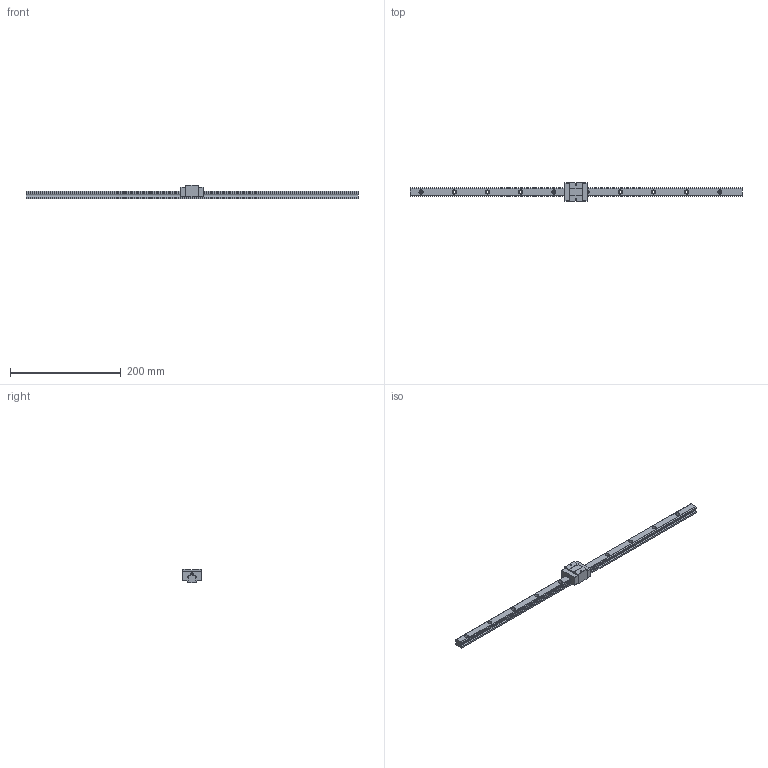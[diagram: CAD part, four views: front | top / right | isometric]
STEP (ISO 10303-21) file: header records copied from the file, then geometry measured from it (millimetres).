
FILE_DESCRIPTION(/* description */ (''),/* implementation_level */ '2;1');
FILE_NAME(/* name */ 'TRS15VS-XN.stp',/* time_stamp */ '2017-10-25T17:09:03+08:00',/* author */ (''),/* organization */ (''),/* preprocessor_version */ 'ST-DEVELOPER v11',/* originating_system */ 'SIEMENS UGS NX 6.0',/* authorisation */ '');
FILE_SCHEMA (('AUTOMOTIVE_DESIGN { 1 0 10303 214 1 1 1 1 }'));
Length unit declared in the file: millimetre
Products named in the file (1): TRS15VS-XN
Bounding box: 600 x 34 x 24 mm (x, y, z)
Volume: 121878.1 mm3; surface area: 43457 mm2
Topology: 2 solids, 2 shells, 122 faces, 306 edges, 202 vertices
Faces by surface type: plane 78, cylinder 44
Full cylindrical faces by diameter (mm): 3.3 x2, 4 x2, 4.5 x10, 7.5 x10
Entity records: 3986 total; most frequent: DIRECTION 606, CARTESIAN_POINT 587, ORIENTED_EDGE 544, EDGE_CURVE 272, AXIS2_PLACEMENT_3D 211, VERTEX_POINT 192, LINE 184, VECTOR 184
